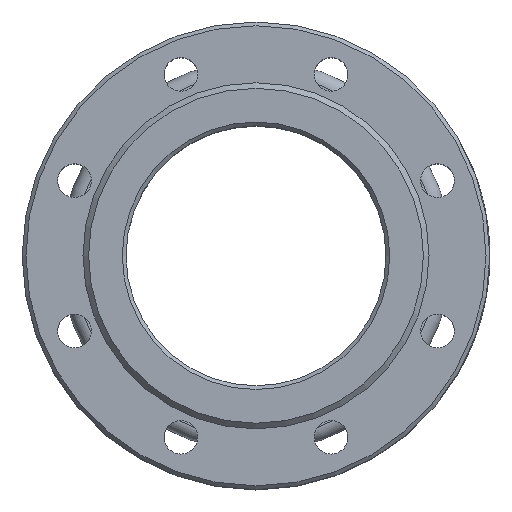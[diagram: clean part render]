
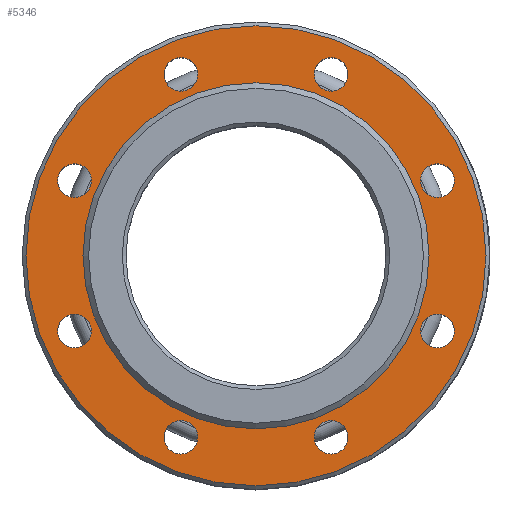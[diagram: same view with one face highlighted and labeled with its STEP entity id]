
A CAD part, top view. The second image highlights one B-rep face of the part: STEP entity #5346.
In plain terms, the highlighted planar face has unit normal (0, 0, 1).
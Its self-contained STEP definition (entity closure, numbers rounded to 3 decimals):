
#167=FACE_BOUND('',#969,.T.);
#168=FACE_BOUND('',#970,.T.);
#169=FACE_BOUND('',#971,.T.);
#170=FACE_BOUND('',#972,.T.);
#171=FACE_BOUND('',#973,.T.);
#172=FACE_BOUND('',#974,.T.);
#173=FACE_BOUND('',#975,.T.);
#174=FACE_BOUND('',#976,.T.);
#175=FACE_BOUND('',#977,.T.);
#401=PLANE('',#5754);
#649=FACE_OUTER_BOUND('',#968,.T.);
#968=EDGE_LOOP('',(#4541));
#969=EDGE_LOOP('',(#4542));
#970=EDGE_LOOP('',(#4543));
#971=EDGE_LOOP('',(#4544));
#972=EDGE_LOOP('',(#4545));
#973=EDGE_LOOP('',(#4546));
#974=EDGE_LOOP('',(#4547));
#975=EDGE_LOOP('',(#4548));
#976=EDGE_LOOP('',(#4549));
#977=EDGE_LOOP('',(#4550));
#1378=CIRCLE('',#5753,123.);
#1379=CIRCLE('',#5755,9.);
#1380=CIRCLE('',#5756,9.);
#1381=CIRCLE('',#5757,9.);
#1382=CIRCLE('',#5758,92.5);
#1383=CIRCLE('',#5759,9.);
#1384=CIRCLE('',#5760,9.);
#1385=CIRCLE('',#5761,9.);
#1386=CIRCLE('',#5762,9.);
#1387=CIRCLE('',#5763,9.);
#2514=VERTEX_POINT('',#11159);
#2515=VERTEX_POINT('',#11163);
#2516=VERTEX_POINT('',#11165);
#2517=VERTEX_POINT('',#11167);
#2518=VERTEX_POINT('',#11169);
#2519=VERTEX_POINT('',#11171);
#2520=VERTEX_POINT('',#11173);
#2521=VERTEX_POINT('',#11175);
#2522=VERTEX_POINT('',#11177);
#2523=VERTEX_POINT('',#11179);
#3201=EDGE_CURVE('',#2514,#2514,#1378,.T.);
#3202=EDGE_CURVE('',#2515,#2515,#1379,.T.);
#3203=EDGE_CURVE('',#2516,#2516,#1380,.T.);
#3204=EDGE_CURVE('',#2517,#2517,#1381,.T.);
#3205=EDGE_CURVE('',#2518,#2518,#1382,.T.);
#3206=EDGE_CURVE('',#2519,#2519,#1383,.T.);
#3207=EDGE_CURVE('',#2520,#2520,#1384,.T.);
#3208=EDGE_CURVE('',#2521,#2521,#1385,.T.);
#3209=EDGE_CURVE('',#2522,#2522,#1386,.T.);
#3210=EDGE_CURVE('',#2523,#2523,#1387,.T.);
#4541=ORIENTED_EDGE('',*,*,#3201,.T.);
#4542=ORIENTED_EDGE('',*,*,#3202,.T.);
#4543=ORIENTED_EDGE('',*,*,#3203,.T.);
#4544=ORIENTED_EDGE('',*,*,#3204,.T.);
#4545=ORIENTED_EDGE('',*,*,#3205,.T.);
#4546=ORIENTED_EDGE('',*,*,#3206,.T.);
#4547=ORIENTED_EDGE('',*,*,#3207,.T.);
#4548=ORIENTED_EDGE('',*,*,#3208,.T.);
#4549=ORIENTED_EDGE('',*,*,#3209,.T.);
#4550=ORIENTED_EDGE('',*,*,#3210,.T.);
#5346=ADVANCED_FACE('',(#649,#167,#168,#169,#170,#171,#172,#173,#174,#175),
#401,.F.);
#5753=AXIS2_PLACEMENT_3D('',#11161,#6854,#6855);
#5754=AXIS2_PLACEMENT_3D('',#11162,#6856,#6857);
#5755=AXIS2_PLACEMENT_3D('',#11164,#6858,#6859);
#5756=AXIS2_PLACEMENT_3D('',#11166,#6860,#6861);
#5757=AXIS2_PLACEMENT_3D('',#11168,#6862,#6863);
#5758=AXIS2_PLACEMENT_3D('',#11170,#6864,#6865);
#5759=AXIS2_PLACEMENT_3D('',#11172,#6866,#6867);
#5760=AXIS2_PLACEMENT_3D('',#11174,#6868,#6869);
#5761=AXIS2_PLACEMENT_3D('',#11176,#6870,#6871);
#5762=AXIS2_PLACEMENT_3D('',#11178,#6872,#6873);
#5763=AXIS2_PLACEMENT_3D('',#11180,#6874,#6875);
#6854=DIRECTION('center_axis',(0.,0.,1.));
#6855=DIRECTION('ref_axis',(0.,1.,0.));
#6856=DIRECTION('center_axis',(0.,0.,-1.));
#6857=DIRECTION('ref_axis',(-1.,0.,0.));
#6858=DIRECTION('center_axis',(0.,0.,-1.));
#6859=DIRECTION('ref_axis',(-1.,0.,0.));
#6860=DIRECTION('center_axis',(0.,0.,-1.));
#6861=DIRECTION('ref_axis',(-1.,0.,0.));
#6862=DIRECTION('center_axis',(0.,0.,-1.));
#6863=DIRECTION('ref_axis',(-1.,0.,0.));
#6864=DIRECTION('center_axis',(0.,0.,-1.));
#6865=DIRECTION('ref_axis',(1.,0.,0.));
#6866=DIRECTION('center_axis',(0.,0.,-1.));
#6867=DIRECTION('ref_axis',(-1.,0.,0.));
#6868=DIRECTION('center_axis',(0.,0.,-1.));
#6869=DIRECTION('ref_axis',(-1.,0.,0.));
#6870=DIRECTION('center_axis',(0.,0.,-1.));
#6871=DIRECTION('ref_axis',(-1.,0.,0.));
#6872=DIRECTION('center_axis',(0.,0.,-1.));
#6873=DIRECTION('ref_axis',(-1.,0.,0.));
#6874=DIRECTION('center_axis',(0.,0.,-1.));
#6875=DIRECTION('ref_axis',(-1.,0.,0.));
#11159=CARTESIAN_POINT('',(0.,-123.,62.));
#11161=CARTESIAN_POINT('Origin',(0.,0.,62.));
#11162=CARTESIAN_POINT('Origin',(0.,0.,62.));
#11163=CARTESIAN_POINT('',(106.007,40.182,62.));
#11164=CARTESIAN_POINT('Origin',(97.007,40.182,62.));
#11165=CARTESIAN_POINT('',(49.182,97.007,62.));
#11166=CARTESIAN_POINT('Origin',(40.182,97.007,62.));
#11167=CARTESIAN_POINT('',(-31.182,97.007,62.));
#11168=CARTESIAN_POINT('Origin',(-40.182,97.007,62.));
#11169=CARTESIAN_POINT('',(-92.5,0.,62.));
#11170=CARTESIAN_POINT('Origin',(0.,0.,62.));
#11171=CARTESIAN_POINT('',(-88.007,40.182,62.));
#11172=CARTESIAN_POINT('Origin',(-97.007,40.182,62.));
#11173=CARTESIAN_POINT('',(49.182,-97.007,62.));
#11174=CARTESIAN_POINT('Origin',(40.182,-97.007,62.));
#11175=CARTESIAN_POINT('',(-88.007,-40.182,62.));
#11176=CARTESIAN_POINT('Origin',(-97.007,-40.182,62.));
#11177=CARTESIAN_POINT('',(106.007,-40.182,62.));
#11178=CARTESIAN_POINT('Origin',(97.007,-40.182,62.));
#11179=CARTESIAN_POINT('',(-31.182,-97.007,62.));
#11180=CARTESIAN_POINT('Origin',(-40.182,-97.007,62.));
